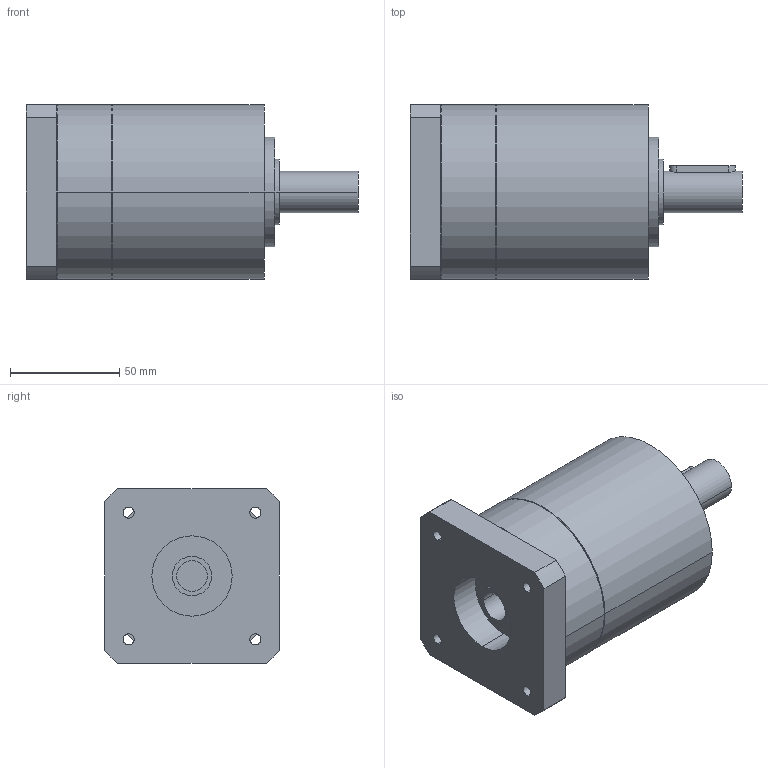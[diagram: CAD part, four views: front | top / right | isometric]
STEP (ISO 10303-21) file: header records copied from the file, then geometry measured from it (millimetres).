
FILE_DESCRIPTION(('CoCreate Modeling STEP Export'),'2;1');
FILE_NAME('GPR100_ig-3-4-5-6_19_B14_14_P27.stp','2014-08-26T10:07:24',(''),(''),'CoCreate Modeling STEP processor for AP214 (Solid Model)','CoCreate Modeling 16.00C 25-Feb-2009 (C) Parametric Technology GmbH','');
FILE_SCHEMA(('AUTOMOTIVE_DESIGN { 1 0 10303 214 1 1 1 1 }'));
Length unit declared in the file: millimetre
Products named in the file (2): GPR100_ig-3-4-5-6_19_B14_14_P27
Assembly tree (1 placements, depth 2):
  GPR100_ig-3-4-5-6_19_B14_14_P27
    GPR100_ig-3-4-5-6_19_B14_14_P27
Bounding box: 152 x 80 x 80 mm (x, y, z)
Volume: 567063 mm3; surface area: 49858.3 mm2
Topology: 1 solids, 1 shells, 71 faces, 195 edges, 133 vertices
Faces by surface type: cylinder 40, plane 25, cone 6
Entity records: 1957 total; most frequent: ORIENTED_EDGE 386, CARTESIAN_POINT 361, DIRECTION 264, EDGE_CURVE 193, VERTEX_POINT 133, AXIS2_PLACEMENT_3D 100, EDGE_LOOP 88, FACE_OUTER_BOUND 71
